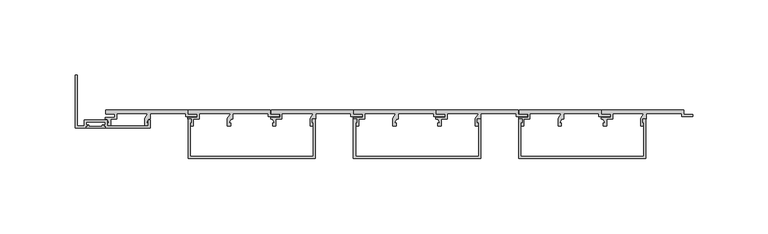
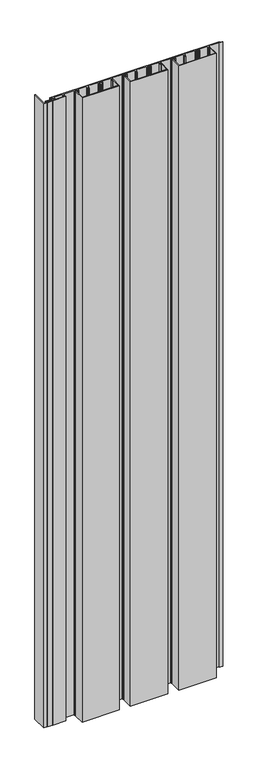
"""IFC4 building model written with IfcOpenShell, lengths in millimetres: proxy geometry, A_GEN_LINE_Small Base_Wide Cap_LTrim : A_GEN_LINE_Small Base_Wide Cap_LTrim."""

from ifc_helpers import new_model, si_unit, origin, origin_with_axes, place, context, project, spatial, polyline, outline, extrude, source, transform, mapped, element, save


def generic_models_a2dd4bea(model_context):
    return source(origin(), model_context, "Body", "SweptSolid", [
        extrude(outline(polyline([(-13.0106499, -11.8818695), (-13.0106499, -10.9050009), (-12.1106499, -10.9050009), (-12.1106499, -10.0050009), (-11.2354943, -10.0050009), (-11.2354943, -10.9050009), (-2.1892046, -10.9050009), (-2.1892046, -10.0050009), (-1.314049, -10.0050009), (-1.314049, -10.9050009), (-0.414049, -10.9050009), (-0.414049, -11.8818695), (-13.0106499, -11.8818695)])), origin_with_axes(), (0.0, 0.0, 1.0), 1500.0),
        extrude(outline(polyline([(-0.414049, -10.9050009), (-1.314049, -10.9050009), (-1.314049, -10.0050009), (-0.414049, -10.0050009), (-0.414049, -7.8818695), (-13.0306499, -7.8818695), (-13.0306499, -10.0050009), (-12.1306499, -10.0050009), (-12.1306499, -10.9050009), (-13.0306499, -10.9050009), (-13.0306499, -11.8818695), (-20.3575953, -11.8818695), (-20.3575953, 23.3746551), (-18.9575953, 23.3746551), (-18.9575953, -10.4818695), (-14.4306499, -10.4818695), (-14.4306499, -6.4818695), (0.985951, -6.4818695), (0.985951, -10.4818695), (28.1839928, -10.4818695), (28.1839928, -6.4818695), (29.5839928, -6.4818695), (29.5839928, -11.8818695), (-0.414049, -11.8818695), (-0.414049, -10.9050009)])), origin_with_axes(), (0.0, 0.0, 1.0), 1500.0),
        extrude(outline(polyline([(274.7732149, -32.2007192), (274.7732149, -6.1), (276.9222219, -6.1), (276.9222219, -8.3419727), (276.1732149, -8.5826662), (276.1732149, -30.8007192), (357.9962294, -30.8007192), (357.9962294, -8.5826662), (357.2472224, -8.3419727), (357.2472224, -6.1), (359.3962294, -6.1), (359.3962294, -32.2007192), (274.7732149, -32.2007192)])), origin_with_axes(), (0.0, 0.0, 1.0), 1500.0),
        extrude(outline(polyline([(164.7737143, -32.2007192), (164.7737143, -6.1), (166.9227213, -6.1), (166.9227213, -8.3419727), (166.1737143, -8.5826662), (166.1737143, -30.8007192), (247.9967288, -30.8007192), (247.9967288, -8.5826662), (247.2477218, -8.3419727), (247.2477218, -6.1), (249.3967288, -6.1), (249.3967288, -32.2007192), (164.7737143, -32.2007192)])), origin_with_axes(), (0.0, 0.0, 1.0), 1500.0),
        extrude(outline(polyline([(54.7742137, -32.2007192), (54.7742137, -6.1), (56.9232207, -6.1), (56.9232207, -8.3419727), (56.1742137, -8.5826662), (56.1742137, -30.8007192), (137.9972282, -30.8007192), (137.9972282, -8.5826662), (137.2482212, -8.3419727), (137.2482212, -6.1), (139.3972282, -6.1), (139.3972282, -32.2007192), (54.7742137, -32.2007192)])), origin_with_axes(), (0.0, 0.0, 1.0), 1500.0),
        extrude(outline(polyline([(330.0, 0.0), (384.5728944, 0.0), (384.5728944, -2.85), (390.5728944, -2.85), (390.5728944, -4.2), (383.0545393, -4.2), (383.0545393, -2.4), (359.5849719, -2.4), (359.5849719, -6.1021884), (358.4699984, -6.1021884), (356.8814326, -8.4994005), (358.1433665, -8.4994005), (358.1433665, -10.4818695), (355.9408405, -10.4818695), (355.9408405, -5.6343123), (358.0399616, -2.4), (337.2195527, -2.4), (337.2195527, -6.1), (333.2291033, -6.1), (333.2291033, -10.4818695), (331.0265772, -10.4818695), (331.0265772, -8.4994005), (332.2885111, -8.4994005), (330.6999453, -6.1021884), (329.6137598, -6.1021884), (329.6137598, -4.9), (336.0195527, -4.9), (336.0195527, -2.7), (330.0, -2.7), (330.0, 0.0)])), origin_with_axes(), (0.0, 0.0, 1.0), 1500.0),
        extrude(outline(polyline([(275.0, 0.0), (329.5728944, 0.0), (329.5728944, -2.85), (335.5728944, -2.85), (335.5728944, -4.2), (328.0545393, -4.2), (328.0545393, -2.4), (304.5849719, -2.4), (304.5849719, -6.1021884), (303.4699984, -6.1021884), (301.8814326, -8.4994005), (303.1433665, -8.4994005), (303.1433665, -10.4818695), (300.9408405, -10.4818695), (300.9408405, -5.6343123), (303.0399616, -2.4), (282.2195527, -2.4), (282.2195527, -6.1), (278.2291033, -6.1), (278.2291033, -10.4818695), (276.0265772, -10.4818695), (276.0265772, -8.4994005), (277.2885111, -8.4994005), (275.6999453, -6.1021884), (274.6137598, -6.1021884), (274.6137598, -4.9), (281.0195527, -4.9), (281.0195527, -2.7), (275.0, -2.7), (275.0, 0.0)])), origin_with_axes(), (0.0, 0.0, 1.0), 1500.0),
        extrude(outline(polyline([(220.0, 0.0), (274.5728944, 0.0), (274.5728944, -2.85), (280.5728944, -2.85), (280.5728944, -4.2), (273.0545393, -4.2), (273.0545393, -2.4), (249.5849719, -2.4), (249.5849719, -6.1021884), (248.4699984, -6.1021884), (246.8814326, -8.4994005), (248.1433665, -8.4994005), (248.1433665, -10.4818695), (245.9408405, -10.4818695), (245.9408405, -5.6343123), (248.0399616, -2.4), (227.2195527, -2.4), (227.2195527, -6.1), (223.2291033, -6.1), (223.2291033, -10.4818695), (221.0265772, -10.4818695), (221.0265772, -8.4994005), (222.2885111, -8.4994005), (220.6999453, -6.1021884), (219.6137598, -6.1021884), (219.6137598, -4.9), (226.0195527, -4.9), (226.0195527, -2.7), (220.0, -2.7), (220.0, 0.0)])), origin_with_axes(), (0.0, 0.0, 1.0), 1500.0),
        extrude(outline(polyline([(165.0, 0.0), (219.5728944, 0.0), (219.5728944, -2.85), (225.5728944, -2.85), (225.5728944, -4.2), (218.0545393, -4.2), (218.0545393, -2.4), (194.5849719, -2.4), (194.5849719, -6.1021884), (193.4699984, -6.1021884), (191.8814326, -8.4994005), (193.1433665, -8.4994005), (193.1433665, -10.4818695), (190.9408405, -10.4818695), (190.9408405, -5.6343123), (193.0399616, -2.4), (172.2195527, -2.4), (172.2195527, -6.1), (168.2291033, -6.1), (168.2291033, -10.4818695), (166.0265772, -10.4818695), (166.0265772, -8.4994005), (167.2885111, -8.4994005), (165.6999453, -6.1021884), (164.6137598, -6.1021884), (164.6137598, -4.9), (171.0195527, -4.9), (171.0195527, -2.7), (165.0, -2.7), (165.0, 0.0)])), origin_with_axes(), (0.0, 0.0, 1.0), 1500.0),
        extrude(outline(polyline([(110.0, 0.0), (164.5728944, 0.0), (164.5728944, -2.85), (170.5728944, -2.85), (170.5728944, -4.2), (163.0545393, -4.2), (163.0545393, -2.4), (139.5849719, -2.4), (139.5849719, -6.1021884), (138.4699984, -6.1021884), (136.8814326, -8.4994005), (138.1433665, -8.4994005), (138.1433665, -10.4818695), (135.9408405, -10.4818695), (135.9408405, -5.6343123), (138.0399616, -2.4), (117.2195527, -2.4), (117.2195527, -6.1), (113.2291033, -6.1), (113.2291033, -10.4818695), (111.0265772, -10.4818695), (111.0265772, -8.4994005), (112.2885111, -8.4994005), (110.6999453, -6.1021884), (109.6137598, -6.1021884), (109.6137598, -4.9), (116.0195527, -4.9), (116.0195527, -2.7), (110.0, -2.7), (110.0, 0.0)])), origin_with_axes(), (0.0, 0.0, 1.0), 1500.0),
        extrude(outline(polyline([(55.0, 0.0), (109.5728944, 0.0), (109.5728944, -2.85), (115.5728944, -2.85), (115.5728944, -4.2), (108.0545393, -4.2), (108.0545393, -2.4), (84.5849719, -2.4), (84.5849719, -6.1021884), (83.4699984, -6.1021884), (81.8814326, -8.4994005), (83.1433665, -8.4994005), (83.1433665, -10.4818695), (80.9408405, -10.4818695), (80.9408405, -5.6343123), (83.0399616, -2.4), (62.2195527, -2.4), (62.2195527, -6.1), (58.2291033, -6.1), (58.2291033, -10.4818695), (56.0265772, -10.4818695), (56.0265772, -8.4994005), (57.2885111, -8.4994005), (55.6999453, -6.1021884), (54.6137598, -6.1021884), (54.6137598, -4.9), (61.0195527, -4.9), (61.0195527, -2.7), (55.0, -2.7), (55.0, 0.0)])), origin_with_axes(), (0.0, 0.0, 1.0), 1500.0),
        extrude(outline(polyline([(0.0, 0.0), (54.5728944, 0.0), (54.5728944, -2.85), (60.5728944, -2.85), (60.5728944, -4.2), (53.0545393, -4.2), (53.0545393, -2.4), (29.5849719, -2.4), (29.5849719, -6.1021884), (28.4699984, -6.1021884), (26.8814326, -8.4994005), (28.1433665, -8.4994005), (28.1433665, -10.4818695), (25.9408405, -10.4818695), (25.9408405, -5.6343123), (28.0399616, -2.4), (7.2195527, -2.4), (7.2195527, -6.1), (3.2291033, -6.1), (3.2291033, -10.4818695), (1.0265772, -10.4818695), (1.0265772, -8.4994005), (2.2885111, -8.4994005), (0.6999453, -6.1021884), (-0.3862402, -6.1021884), (-0.3862402, -4.9), (6.0195527, -4.9), (6.0195527, -2.7), (0.0, -2.7), (0.0, 0.0)])), origin_with_axes(), (0.0, 0.0, 1.0), 1500.0),
    ])


if __name__ == "__main__":
    model = new_model("IFC4")
    model_context = context("Model", 3, world=origin())
    ifc_project = project(units=[si_unit("LENGTHUNIT", "METRE", prefix="MILLI")], contexts=[model_context])
    site = spatial("IfcSite", under=ifc_project)
    building = spatial("IfcBuilding", under=site)
    placement = place(None, origin())
    generic_models_shape = generic_models_a2dd4bea(model_context)
    element("IfcBuildingElementProxy", 1, Name="A_GEN_LINE_Small Base_Wide Cap_LTrim : A_GEN_LINE_Small Base_Wide Cap_LTrim", ObjectType="A_GEN_LINE_Small Base_Wide Cap_LTrim : A_GEN_LINE_Small Base_Wide Cap_LTrim", at=placement, inside=building, context=model_context, shape_type="MappedRepresentation", body=[
        mapped(generic_models_shape, transform((0.0, 0.0, 0.0), x_axis=(1.0, 0.0, 0.0), y_axis=(0.0, 1.0, 0.0), z_axis=(0.0, 0.0, 1.0))),
    ])
    save(model, "model.ifc")
